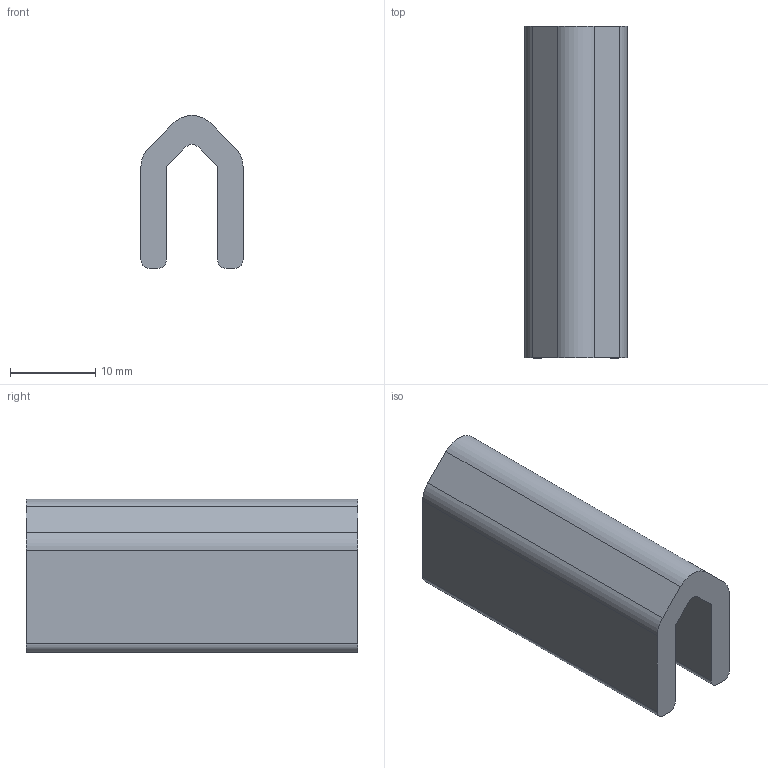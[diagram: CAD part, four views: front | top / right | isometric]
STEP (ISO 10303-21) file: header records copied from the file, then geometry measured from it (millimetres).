
FILE_DESCRIPTION (( 'STEP AP203' ), '1' );
FILE_NAME ('Join Clip.STEP', '2024-12-14T06:04:25', ( '' ), ( '' ), 'SwSTEP 2.0', 'SolidWorks 2018', '' );
FILE_SCHEMA (( 'CONFIG_CONTROL_DESIGN' ));
Length unit declared in the file: millimetre
Products named in the file (1): Join Clip
Bounding box: 12 x 39 x 17.99 mm (x, y, z)
Volume: 4327 mm3; surface area: 3273.6 mm2
Topology: 1 solids, 1 shells, 21 faces, 57 edges, 38 vertices
Faces by surface type: plane 12, cylinder 9
Entity records: 746 total; most frequent: DIRECTION 119, CARTESIAN_POINT 117, ORIENTED_EDGE 114, EDGE_CURVE 57, AXIS2_PLACEMENT_3D 40, LINE 39, VECTOR 39, VERTEX_POINT 38
